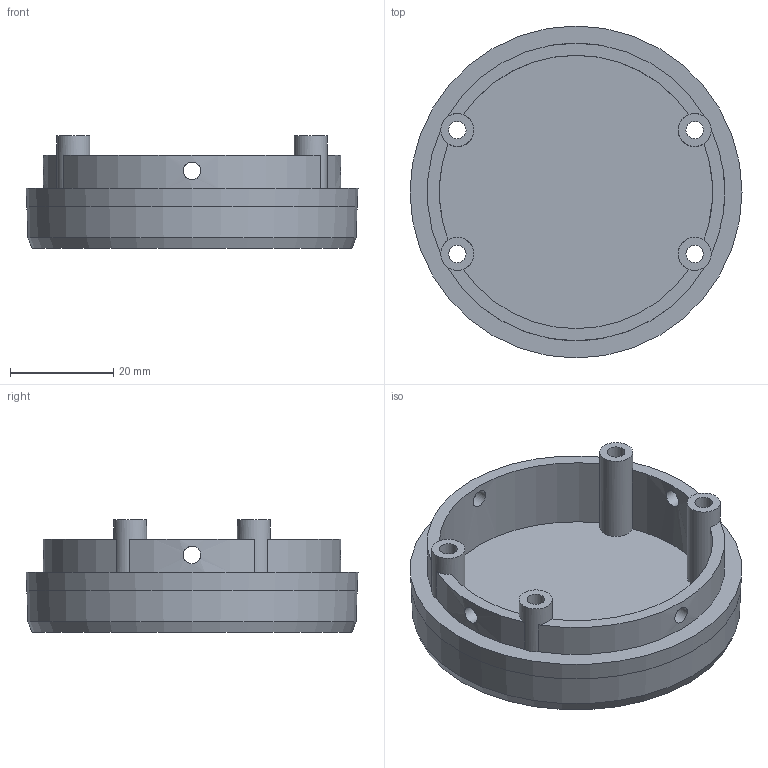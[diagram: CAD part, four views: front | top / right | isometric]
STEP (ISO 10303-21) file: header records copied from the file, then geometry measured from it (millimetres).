
FILE_DESCRIPTION(('FreeCAD Model'),'2;1');
FILE_NAME('Open CASCADE Shape Model','2026-09-19T17:18:18',('FreeCAD'),( 'FreeCAD'),'Open CASCADE STEP processor 7.8','FreeCAD','Unknown');
FILE_SCHEMA(('AUTOMOTIVE_DESIGN { 1 0 10303 214 1 1 1 1 }'));
Length unit declared in the file: millimetre
Products named in the file (1): Open CASCADE STEP translator 7.8 3
Bounding box: 64.36 x 64.36 x 21.8 mm (x, y, z)
Volume: 23574.9 mm3; surface area: 13560.5 mm2
Topology: 1 solids, 1 shells, 34 faces, 97 edges, 66 vertices
Faces by surface type: cylinder 20, plane 11, cone 3
Full cylindrical faces by diameter (mm): 3.4 x8, 6.4 x4
Entity records: 1553 total; most frequent: CARTESIAN_POINT 588, DIRECTION 209, ORIENTED_EDGE 194, EDGE_CURVE 97, AXIS2_PLACEMENT_3D 91, VERTEX_POINT 66, CIRCLE 56, FACE_BOUND 51
